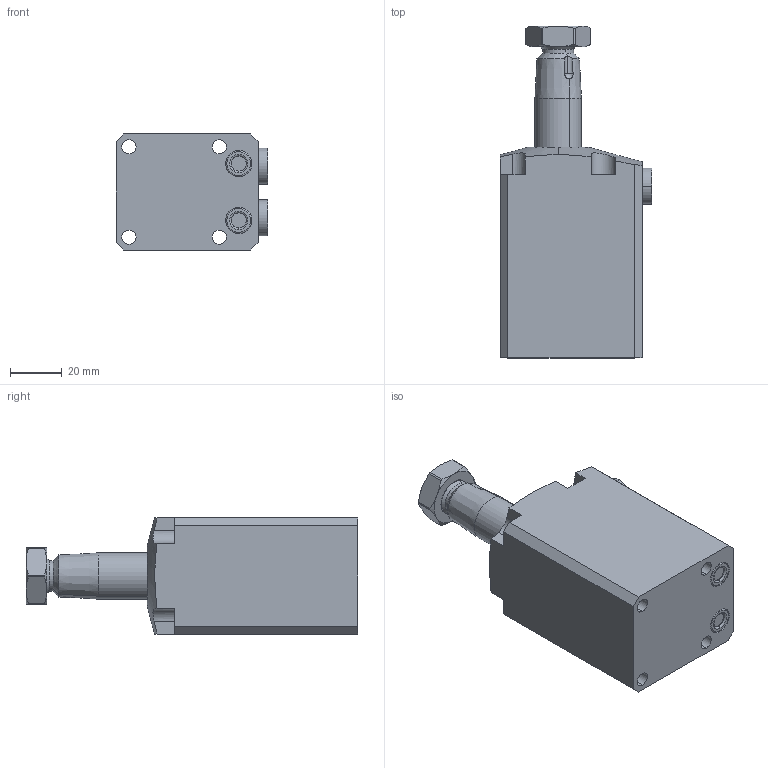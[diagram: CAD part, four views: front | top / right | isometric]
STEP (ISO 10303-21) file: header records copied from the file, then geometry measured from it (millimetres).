
FILE_DESCRIPTION(/* description */ (''),/* implementation_level */ '2;1');
FILE_NAME(/* name */ 'BRC02-LN60.stp',/* time_stamp */ '2025-01-05T08:47:42+08:00',/* author */ (''),/* organization */ (''),/* preprocessor_version */ 'ST-DEVELOPER v16.7',/* originating_system */ 'SIEMENS PLM Software NX 12.0',/* authorisation */ '');
FILE_SCHEMA (('AUTOMOTIVE_DESIGN { 1 0 10303 214 3 1 1 1 }'));
Length unit declared in the file: millimetre
Products named in the file (5): BRC02-LN60-03; BRC02-LN60-04; BRC02-LN60-02; BRC02-LN60-01; BRC02-LN60_stp
Assembly tree (5 placements, depth 2):
  BRC02-LN60_stp
    BRC02-LN60-01
    BRC02-LN60-02
    BRC02-LN60-04  x2
    BRC02-LN60-03
Bounding box: 58.8 x 128.5 x 45 mm (x, y, z)
Volume: 194529.1 mm3; surface area: 32846.6 mm2
Topology: 7 solids, 7 shells, 176 faces, 401 edges, 248 vertices
Faces by surface type: plane 68, cylinder 57, cone 34, torus 16, sphere 1
Full cylindrical faces by diameter (mm): 8.5 x2
Entity records: 4664 total; most frequent: CARTESIAN_POINT 961, DIRECTION 778, ORIENTED_EDGE 712, EDGE_CURVE 356, AXIS2_PLACEMENT_3D 313, VERTEX_POINT 222, EDGE_LOOP 180, ADVANCED_FACE 156
